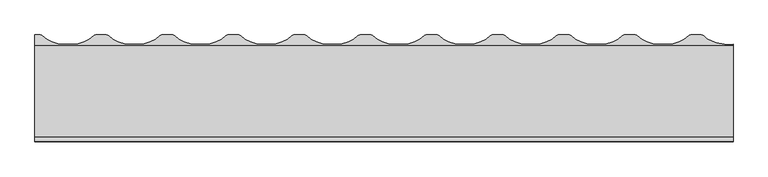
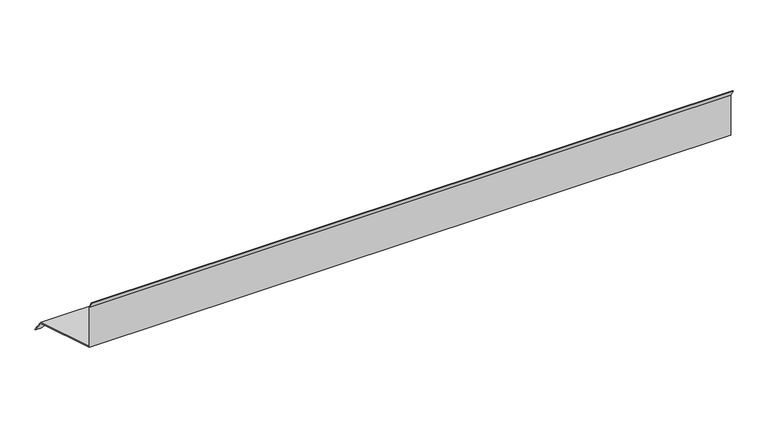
"""IFC4 building model written with IfcOpenShell, lengths in millimetres: proxy geometry, H20.F20.003-E-REMATES TEJA-Troquelado a Pared : Troquelado a Pared Teja."""

from ifc_helpers import new_model, si_unit, point, frame, origin, place, context, project, spatial, ellipse_curve, trimmed, source, transform, mapped, element, save
from ifc_brep_helpers import plane_surface, extruded_surface, advanced_brep


def generic_models_b343a18a(model_context):
    return source(origin(), model_context, "Body", "AdvancedBrep", [
        advanced_brep(
        [(0.0, 0.0, 0.0), (0.0, 230.5094655, -70.473816), (0.0, 257.6202057, -106.3904941), (0.0, 256.3431683, -107.3544315), (0.0, 229.5451993, -71.852117), (0.0, -1.6, -1.1839377), (0.0, -1.6, 114.1712813), (0.0, -11.5588457, 131.4205081), (0.0, -10.0, 132.3205081), (0.0, 0.0, 115.0), (1760.0, 0.0, 0.0), (1760.0, 230.5094655, -70.473816), (1760.0, 233.7002202, -74.7009713), (1685.5419763, 255.2613563, -103.2654582), (1678.6278261, 257.6202057, -106.3904941), (1654.5721739, 257.6202057, -106.3904941), (1647.6580237, 255.2613563, -103.2654582), (1518.8819763, 255.2613563, -103.2654582), (1511.9678261, 257.6202057, -106.3904941), (1487.9121739, 257.6202057, -106.3904941), (1480.9980237, 255.2613563, -103.2654582), (1352.2219763, 255.2613563, -103.2654582), (1345.3078261, 257.6202057, -106.3904941), (1321.2521739, 257.6202057, -106.3904941), (1314.3380237, 255.2613563, -103.2654582), (1185.5619763, 255.2613563, -103.2654582), (1178.6478261, 257.6202057, -106.3904941), (1154.5921739, 257.6202057, -106.3904941), (1147.6780237, 255.2613563, -103.2654582), (1018.9019763, 255.2613563, -103.2654582), (1011.9878261, 257.6202057, -106.3904941), (987.9321739, 257.6202057, -106.3904941), (981.0180237, 255.2613563, -103.2654582), (852.2419763, 255.2613563, -103.2654582), (845.3278261, 257.6202057, -106.3904941), (821.2721739, 257.6202057, -106.3904941), (814.3580237, 255.2613563, -103.2654582), (685.5819763, 255.2613563, -103.2654582), (678.6678261, 257.6202057, -106.3904941), (654.6121739, 257.6202057, -106.3904941), (647.6980237, 255.2613563, -103.2654582), (518.9219763, 255.2613563, -103.2654582), (512.0078261, 257.6202057, -106.3904941), (487.9521739, 257.6202057, -106.3904941), (481.0380237, 255.2613563, -103.2654582), (352.2619763, 255.2613563, -103.2654582), (345.3478261, 257.6202057, -106.3904941), (321.2921739, 257.6202057, -106.3904941), (314.3780237, 255.2613563, -103.2654582), (185.6019763, 255.2613563, -103.2654582), (178.6878261, 257.6202057, -106.3904941), (154.6321739, 257.6202057, -106.3904941), (147.7180237, 255.2613563, -103.2654582), (18.9419763, 255.2613563, -103.2654582), (12.0278261, 257.6202057, -106.3904941), (12.0278261, 256.3431683, -107.3544315), (178.6878261, 256.3431683, -107.3544315), (154.6321739, 256.3431683, -107.3544315), (345.3478261, 256.3431683, -107.3544315), (321.2921739, 256.3431683, -107.3544315), (512.0078261, 256.3431683, -107.3544315), (487.9521739, 256.3431683, -107.3544315), (678.6678261, 256.3431683, -107.3544315), (654.6121739, 256.3431683, -107.3544315), (845.3278261, 256.3431683, -107.3544315), (821.2721739, 256.3431683, -107.3544315), (1011.9878261, 256.3431683, -107.3544315), (987.9321739, 256.3431683, -107.3544315), (1178.6478261, 256.3431683, -107.3544315), (1154.5921739, 256.3431683, -107.3544315), (1345.3078261, 256.3431683, -107.3544315), (1321.2521739, 256.3431683, -107.3544315), (1511.9678261, 256.3431683, -107.3544315), (1487.9121739, 256.3431683, -107.3544315), (1678.6278261, 256.3431683, -107.3544315), (1654.5721739, 256.3431683, -107.3544315), (18.9419763, 253.9843188, -104.2293957), (147.7180237, 253.9843188, -104.2293957), (185.6019763, 253.9843188, -104.2293957), (314.3780237, 253.9843188, -104.2293957), (352.2619763, 253.9843188, -104.2293957), (481.0380237, 253.9843188, -104.2293957), (518.9219763, 253.9843188, -104.2293957), (647.6980237, 253.9843188, -104.2293957), (685.5819763, 253.9843188, -104.2293957), (814.3580237, 253.9843188, -104.2293957), (852.2419763, 253.9843188, -104.2293957), (981.0180237, 253.9843188, -104.2293957), (1018.9019763, 253.9843188, -104.2293957), (1147.6780237, 253.9843188, -104.2293957), (1185.5619763, 253.9843188, -104.2293957), (1314.3380237, 253.9843188, -104.2293957), (1352.2219763, 253.9843188, -104.2293957), (1480.9980237, 253.9843188, -104.2293957), (1518.8819763, 253.9843188, -104.2293957), (1647.6580237, 253.9843188, -104.2293957), (1685.5419763, 253.9843188, -104.2293957), (1760.0, 232.4231827, -75.6649087), (1760.0, 229.5451993, -71.852117), (1760.0, -1.6, -1.1839377), (1760.0, -1.6, 114.1712813), (1760.0, -11.5588457, 131.4205081), (1760.0, -10.0, 132.3205081), (1760.0, 0.0, 115.0)],
        [
            (0, 1),
            (1, 2),
            (2, 3),
            (3, 4),
            (4, 5),
            (5, 6),
            (6, 7),
            (7, 8),
            (8, 9),
            (9, 0),
            (0, 10),
            (10, 11),
            (11, 1),
            (11, 12),
            (12, 13, ellipse_curve(frame((1749.93, 277.496029, -132.7222557), z_axis=(0.0, -0.7981484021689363, -0.6024608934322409), x_axis=(1.0, 0.0, 0.0)), 74.5, 73.3681776)),
            (13, 14, ellipse_curve(frame((1678.6278261, 252.8737404, -100.1023122), z_axis=(0.0, 0.7981484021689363, 0.6024608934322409), x_axis=(1.0, 0.0, 0.0)), 8.0, 7.878462)),
            (14, 15),
            (15, 16, ellipse_curve(frame((1654.5721739, 252.8737404, -100.1023122), z_axis=(0.0, 0.7981484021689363, 0.6024608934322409), x_axis=(1.0, 0.0, 0.0)), 8.0, 7.878462)),
            (16, 17, ellipse_curve(frame((1583.27, 277.496029, -132.7222557), z_axis=(0.0, -0.7981484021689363, -0.6024608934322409), x_axis=(1.0, 0.0, 0.0)), 74.5, 73.3681776)),
            (17, 18, ellipse_curve(frame((1511.9678261, 252.8737404, -100.1023122), z_axis=(0.0, 0.7981484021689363, 0.6024608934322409), x_axis=(1.0, 0.0, 0.0)), 8.0, 7.878462)),
            (18, 19),
            (19, 20, ellipse_curve(frame((1487.9121739, 252.8737404, -100.1023122), z_axis=(0.0, 0.7981484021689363, 0.6024608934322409), x_axis=(1.0, 0.0, 0.0)), 8.0, 7.878462)),
            (20, 21, ellipse_curve(frame((1416.61, 277.496029, -132.7222557), z_axis=(0.0, -0.7981484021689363, -0.6024608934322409), x_axis=(1.0, 0.0, 0.0)), 74.5, 73.3681776)),
            (21, 22, ellipse_curve(frame((1345.3078261, 252.8737404, -100.1023122), z_axis=(0.0, 0.7981484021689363, 0.6024608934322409), x_axis=(1.0, 0.0, 0.0)), 8.0, 7.878462)),
            (22, 23),
            (23, 24, ellipse_curve(frame((1321.2521739, 252.8737404, -100.1023122), z_axis=(0.0, 0.7981484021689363, 0.6024608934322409), x_axis=(1.0, 0.0, 0.0)), 8.0, 7.878462)),
            (24, 25, ellipse_curve(frame((1249.95, 277.496029, -132.7222557), z_axis=(0.0, -0.7981484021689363, -0.6024608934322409), x_axis=(1.0, 0.0, 0.0)), 74.5, 73.3681776)),
            (25, 26, ellipse_curve(frame((1178.6478261, 252.8737404, -100.1023122), z_axis=(0.0, 0.7981484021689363, 0.6024608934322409), x_axis=(1.0, 0.0, 0.0)), 8.0, 7.878462)),
            (26, 27),
            (27, 28, ellipse_curve(frame((1154.5921739, 252.8737404, -100.1023122), z_axis=(0.0, 0.7981484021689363, 0.6024608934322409), x_axis=(1.0, 0.0, 0.0)), 8.0, 7.878462)),
            (28, 29, ellipse_curve(frame((1083.29, 277.496029, -132.7222557), z_axis=(0.0, -0.7981484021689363, -0.6024608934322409), x_axis=(1.0, 0.0, 0.0)), 74.5, 73.3681776)),
            (29, 30, ellipse_curve(frame((1011.9878261, 252.8737404, -100.1023122), z_axis=(0.0, 0.7981484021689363, 0.6024608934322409), x_axis=(1.0, 0.0, 0.0)), 8.0, 7.878462)),
            (30, 31),
            (31, 32, ellipse_curve(frame((987.9321739, 252.8737404, -100.1023122), z_axis=(0.0, 0.7981484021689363, 0.6024608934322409), x_axis=(1.0, 0.0, 0.0)), 8.0, 7.878462)),
            (32, 33, ellipse_curve(frame((916.63, 277.496029, -132.7222557), z_axis=(0.0, -0.7981484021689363, -0.6024608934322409), x_axis=(1.0, 0.0, 0.0)), 74.5, 73.3681776)),
            (33, 34, ellipse_curve(frame((845.3278261, 252.8737404, -100.1023122), z_axis=(0.0, 0.7981484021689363, 0.6024608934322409), x_axis=(1.0, 0.0, 0.0)), 8.0, 7.878462)),
            (34, 35),
            (35, 36, ellipse_curve(frame((821.2721739, 252.8737404, -100.1023122), z_axis=(0.0, 0.7981484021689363, 0.6024608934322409), x_axis=(1.0, 0.0, 0.0)), 8.0, 7.878462)),
            (36, 37, ellipse_curve(frame((749.97, 277.496029, -132.7222557), z_axis=(0.0, -0.7981484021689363, -0.6024608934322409), x_axis=(1.0, 0.0, 0.0)), 74.5, 73.3681776)),
            (37, 38, ellipse_curve(frame((678.6678261, 252.8737404, -100.1023122), z_axis=(0.0, 0.7981484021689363, 0.6024608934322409), x_axis=(1.0, 0.0, 0.0)), 8.0, 7.878462)),
            (38, 39),
            (39, 40, ellipse_curve(frame((654.6121739, 252.8737404, -100.1023122), z_axis=(0.0, 0.7981484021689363, 0.6024608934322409), x_axis=(1.0, 0.0, 0.0)), 8.0, 7.878462)),
            (40, 41, ellipse_curve(frame((583.31, 277.496029, -132.7222557), z_axis=(0.0, -0.7981484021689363, -0.6024608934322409), x_axis=(1.0, 0.0, 0.0)), 74.5, 73.3681776)),
            (41, 42, ellipse_curve(frame((512.0078261, 252.8737404, -100.1023122), z_axis=(0.0, 0.7981484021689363, 0.6024608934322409), x_axis=(1.0, 0.0, 0.0)), 8.0, 7.878462)),
            (42, 43),
            (43, 44, ellipse_curve(frame((487.9521739, 252.8737404, -100.1023122), z_axis=(0.0, 0.7981484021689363, 0.6024608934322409), x_axis=(1.0, 0.0, 0.0)), 8.0, 7.878462)),
            (44, 45, ellipse_curve(frame((416.65, 277.496029, -132.7222557), z_axis=(0.0, -0.7981484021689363, -0.6024608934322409), x_axis=(1.0, 0.0, 0.0)), 74.5, 73.3681776)),
            (45, 46, ellipse_curve(frame((345.3478261, 252.8737404, -100.1023122), z_axis=(0.0, 0.7981484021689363, 0.6024608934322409), x_axis=(1.0, 0.0, 0.0)), 8.0, 7.878462)),
            (46, 47),
            (47, 48, ellipse_curve(frame((321.2921739, 252.8737404, -100.1023122), z_axis=(0.0, 0.7981484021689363, 0.6024608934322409), x_axis=(1.0, 0.0, 0.0)), 8.0, 7.878462)),
            (48, 49, ellipse_curve(frame((249.99, 277.496029, -132.7222557), z_axis=(0.0, -0.7981484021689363, -0.6024608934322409), x_axis=(1.0, 0.0, 0.0)), 74.5, 73.3681776)),
            (49, 50, ellipse_curve(frame((178.6878261, 252.8737404, -100.1023122), z_axis=(0.0, 0.7981484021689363, 0.6024608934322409), x_axis=(1.0, 0.0, 0.0)), 8.0, 7.878462)),
            (50, 51),
            (51, 52, ellipse_curve(frame((154.6321739, 252.8737404, -100.1023122), z_axis=(0.0, 0.7981484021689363, 0.6024608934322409), x_axis=(1.0, 0.0, 0.0)), 8.0, 7.878462)),
            (52, 53, ellipse_curve(frame((83.33, 277.496029, -132.7222557), z_axis=(0.0, -0.7981484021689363, -0.6024608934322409), x_axis=(1.0, 0.0, 0.0)), 74.5, 73.3681776)),
            (53, 54, ellipse_curve(frame((12.0278261, 252.8737404, -100.1023122), z_axis=(0.0, 0.7981484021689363, 0.6024608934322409), x_axis=(1.0, 0.0, 0.0)), 8.0, 7.878462)),
            (54, 2),
            (54, 55),
            (55, 3),
            (50, 56),
            (56, 57),
            (57, 51),
            (46, 58),
            (58, 59),
            (59, 47),
            (42, 60),
            (60, 61),
            (61, 43),
            (38, 62),
            (62, 63),
            (63, 39),
            (34, 64),
            (64, 65),
            (65, 35),
            (30, 66),
            (66, 67),
            (67, 31),
            (26, 68),
            (68, 69),
            (69, 27),
            (22, 70),
            (70, 71),
            (71, 23),
            (18, 72),
            (72, 73),
            (73, 19),
            (14, 74),
            (74, 75),
            (75, 15),
            (55, 76, ellipse_curve(frame((12.0278261, 251.596703, -101.0662496), z_axis=(0.0, -0.7981484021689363, -0.6024608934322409), x_axis=(1.0, 0.0, 0.0)), 8.0, 7.878462)),
            (76, 77, ellipse_curve(frame((83.33, 276.2189916, -133.6861931), z_axis=(0.0, 0.7981484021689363, 0.6024608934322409), x_axis=(1.0, 0.0, 0.0)), 74.5, 73.3681776)),
            (77, 57, ellipse_curve(frame((154.6321739, 251.596703, -101.0662496), z_axis=(0.0, -0.7981484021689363, -0.6024608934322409), x_axis=(1.0, 0.0, 0.0)), 8.0, 7.878462)),
            (56, 78, ellipse_curve(frame((178.6878261, 251.596703, -101.0662496), z_axis=(0.0, -0.7981484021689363, -0.6024608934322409), x_axis=(1.0, 0.0, 0.0)), 8.0, 7.878462)),
            (78, 79, ellipse_curve(frame((249.99, 276.2189916, -133.6861931), z_axis=(0.0, 0.7981484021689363, 0.6024608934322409), x_axis=(1.0, 0.0, 0.0)), 74.5, 73.3681776)),
            (79, 59, ellipse_curve(frame((321.2921739, 251.596703, -101.0662496), z_axis=(0.0, -0.7981484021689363, -0.6024608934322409), x_axis=(1.0, 0.0, 0.0)), 8.0, 7.878462)),
            (58, 80, ellipse_curve(frame((345.3478261, 251.596703, -101.0662496), z_axis=(0.0, -0.7981484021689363, -0.6024608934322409), x_axis=(1.0, 0.0, 0.0)), 8.0, 7.878462)),
            (80, 81, ellipse_curve(frame((416.65, 276.2189916, -133.6861931), z_axis=(0.0, 0.7981484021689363, 0.6024608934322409), x_axis=(1.0, 0.0, 0.0)), 74.5, 73.3681776)),
            (81, 61, ellipse_curve(frame((487.9521739, 251.596703, -101.0662496), z_axis=(0.0, -0.7981484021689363, -0.6024608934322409), x_axis=(1.0, 0.0, 0.0)), 8.0, 7.878462)),
            (60, 82, ellipse_curve(frame((512.0078261, 251.596703, -101.0662496), z_axis=(0.0, -0.7981484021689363, -0.6024608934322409), x_axis=(1.0, 0.0, 0.0)), 8.0, 7.878462)),
            (82, 83, ellipse_curve(frame((583.31, 276.2189916, -133.6861931), z_axis=(0.0, 0.7981484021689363, 0.6024608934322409), x_axis=(1.0, 0.0, 0.0)), 74.5, 73.3681776)),
            (83, 63, ellipse_curve(frame((654.6121739, 251.596703, -101.0662496), z_axis=(0.0, -0.7981484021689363, -0.6024608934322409), x_axis=(1.0, 0.0, 0.0)), 8.0, 7.878462)),
            (62, 84, ellipse_curve(frame((678.6678261, 251.596703, -101.0662496), z_axis=(0.0, -0.7981484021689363, -0.6024608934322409), x_axis=(1.0, 0.0, 0.0)), 8.0, 7.878462)),
            (84, 85, ellipse_curve(frame((749.97, 276.2189916, -133.6861931), z_axis=(0.0, 0.7981484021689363, 0.6024608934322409), x_axis=(1.0, 0.0, 0.0)), 74.5, 73.3681776)),
            (85, 65, ellipse_curve(frame((821.2721739, 251.596703, -101.0662496), z_axis=(0.0, -0.7981484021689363, -0.6024608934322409), x_axis=(1.0, 0.0, 0.0)), 8.0, 7.878462)),
            (64, 86, ellipse_curve(frame((845.3278261, 251.596703, -101.0662496), z_axis=(0.0, -0.7981484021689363, -0.6024608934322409), x_axis=(1.0, 0.0, 0.0)), 8.0, 7.878462)),
            (86, 87, ellipse_curve(frame((916.63, 276.2189916, -133.6861931), z_axis=(0.0, 0.7981484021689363, 0.6024608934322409), x_axis=(1.0, 0.0, 0.0)), 74.5, 73.3681776)),
            (87, 67, ellipse_curve(frame((987.9321739, 251.596703, -101.0662496), z_axis=(0.0, -0.7981484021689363, -0.6024608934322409), x_axis=(1.0, 0.0, 0.0)), 8.0, 7.878462)),
            (66, 88, ellipse_curve(frame((1011.9878261, 251.596703, -101.0662496), z_axis=(0.0, -0.7981484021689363, -0.6024608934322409), x_axis=(1.0, 0.0, 0.0)), 8.0, 7.878462)),
            (88, 89, ellipse_curve(frame((1083.29, 276.2189916, -133.6861931), z_axis=(0.0, 0.7981484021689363, 0.6024608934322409), x_axis=(1.0, 0.0, 0.0)), 74.5, 73.3681776)),
            (89, 69, ellipse_curve(frame((1154.5921739, 251.596703, -101.0662496), z_axis=(0.0, -0.7981484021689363, -0.6024608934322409), x_axis=(1.0, 0.0, 0.0)), 8.0, 7.878462)),
            (68, 90, ellipse_curve(frame((1178.6478261, 251.596703, -101.0662496), z_axis=(0.0, -0.7981484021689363, -0.6024608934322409), x_axis=(1.0, 0.0, 0.0)), 8.0, 7.878462)),
            (90, 91, ellipse_curve(frame((1249.95, 276.2189916, -133.6861931), z_axis=(0.0, 0.7981484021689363, 0.6024608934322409), x_axis=(1.0, 0.0, 0.0)), 74.5, 73.3681776)),
            (91, 71, ellipse_curve(frame((1321.2521739, 251.596703, -101.0662496), z_axis=(0.0, -0.7981484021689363, -0.6024608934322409), x_axis=(1.0, 0.0, 0.0)), 8.0, 7.878462)),
            (70, 92, ellipse_curve(frame((1345.3078261, 251.596703, -101.0662496), z_axis=(0.0, -0.7981484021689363, -0.6024608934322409), x_axis=(1.0, 0.0, 0.0)), 8.0, 7.878462)),
            (92, 93, ellipse_curve(frame((1416.61, 276.2189916, -133.6861931), z_axis=(0.0, 0.7981484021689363, 0.6024608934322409), x_axis=(1.0, 0.0, 0.0)), 74.5, 73.3681776)),
            (93, 73, ellipse_curve(frame((1487.9121739, 251.596703, -101.0662496), z_axis=(0.0, -0.7981484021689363, -0.6024608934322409), x_axis=(1.0, 0.0, 0.0)), 8.0, 7.878462)),
            (72, 94, ellipse_curve(frame((1511.9678261, 251.596703, -101.0662496), z_axis=(0.0, -0.7981484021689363, -0.6024608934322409), x_axis=(1.0, 0.0, 0.0)), 8.0, 7.878462)),
            (94, 95, ellipse_curve(frame((1583.27, 276.2189916, -133.6861931), z_axis=(0.0, 0.7981484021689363, 0.6024608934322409), x_axis=(1.0, 0.0, 0.0)), 74.5, 73.3681776)),
            (95, 75, ellipse_curve(frame((1654.5721739, 251.596703, -101.0662496), z_axis=(0.0, -0.7981484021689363, -0.6024608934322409), x_axis=(1.0, 0.0, 0.0)), 8.0, 7.878462)),
            (74, 96, ellipse_curve(frame((1678.6278261, 251.596703, -101.0662496), z_axis=(0.0, -0.7981484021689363, -0.6024608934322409), x_axis=(1.0, 0.0, 0.0)), 8.0, 7.878462)),
            (96, 97, ellipse_curve(frame((1749.93, 276.2189916, -133.6861931), z_axis=(0.0, 0.7981484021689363, 0.6024608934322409), x_axis=(1.0, 0.0, 0.0)), 74.5, 73.3681776)),
            (97, 98),
            (98, 4),
            (52, 77),
            (76, 53),
            (49, 78),
            (48, 79),
            (45, 80),
            (44, 81),
            (41, 82),
            (40, 83),
            (37, 84),
            (36, 85),
            (33, 86),
            (32, 87),
            (29, 88),
            (28, 89),
            (25, 90),
            (24, 91),
            (21, 92),
            (20, 93),
            (17, 94),
            (16, 95),
            (13, 96),
            (12, 97),
            (98, 99),
            (99, 5),
            (99, 100),
            (100, 6),
            (100, 101),
            (101, 7),
            (101, 102),
            (102, 8),
            (102, 103),
            (103, 9),
            (103, 10),
        ],
        [
            plane_surface(frame((0.0, 0.0, 0.0), z_axis=(-1.0, 0.0, 0.0), x_axis=(0.0, 0.0, 1.0))),
            plane_surface(frame((2500.0, 0.0, 0.0), z_axis=(0.0, 0.2923717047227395, 0.9563047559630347), x_axis=(-1.0, 0.0, 0.0))),
            plane_surface(frame((2500.0, 230.5094655, -70.473816), z_axis=(0.0, 0.7981484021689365, 0.6024608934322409), x_axis=(-1.0, 0.0, 0.0))),
            plane_surface(frame((2500.0, 257.6202057, -106.3904941), z_axis=(0.0, 0.6024608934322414, -0.798148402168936), x_axis=(-1.0, 0.0, 0.0))),
            plane_surface(frame((2500.0, 256.3431683, -107.3544315), z_axis=(0.0, -0.7981484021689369, -0.6024608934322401), x_axis=(-1.0, 0.0, 0.0))),
            extruded_surface(trimmed(ellipse_curve(frame((83.33, 279.0923258, -131.5173339), z_axis=(0.0, 0.7981484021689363, 0.6024608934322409), x_axis=(1.0, 0.0, 0.0)), 74.5, 73.3681776), [point((18.9419763, 256.8576531, -102.0605364))], [point((147.7180237, 256.8576531, -102.0605364))], True, "CARTESIAN"), (0.0, -1.5962968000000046, -1.204921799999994), 2.00000000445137),
            extruded_surface(trimmed(ellipse_curve(frame((154.6321739, 254.4700372, -98.8973904), z_axis=(0.0, -0.7981484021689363, -0.6024608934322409), x_axis=(1.0, 0.0, 0.0)), 8.0, 7.878462), [point((147.7180237, 256.8576531, -102.0605364))], [point((154.6321739, 259.2165025, -105.1855723))], True, "CARTESIAN"), (0.0, -1.5962968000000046, -1.204921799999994), 2.00000000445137),
            extruded_surface(trimmed(ellipse_curve(frame((178.6878261, 254.4700372, -98.8973904), z_axis=(0.0, -0.7981484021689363, -0.6024608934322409), x_axis=(1.0, 0.0, 0.0)), 8.0, 7.878462), [point((178.6878261, 259.2165025, -105.1855723))], [point((185.6019763, 256.8576531, -102.0605364))], True, "CARTESIAN"), (0.0, -1.5962968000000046, -1.204921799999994), 2.00000000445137),
            extruded_surface(trimmed(ellipse_curve(frame((249.99, 279.0923258, -131.5173339), z_axis=(0.0, 0.7981484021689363, 0.6024608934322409), x_axis=(1.0, 0.0, 0.0)), 74.5, 73.3681776), [point((185.6019763, 256.8576531, -102.0605364))], [point((314.3780237, 256.8576531, -102.0605364))], True, "CARTESIAN"), (0.0, -1.5962968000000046, -1.204921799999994), 2.00000000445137),
            extruded_surface(trimmed(ellipse_curve(frame((321.2921739, 254.4700372, -98.8973904), z_axis=(0.0, -0.7981484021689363, -0.6024608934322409), x_axis=(1.0, 0.0, 0.0)), 8.0, 7.878462), [point((314.3780237, 256.8576531, -102.0605364))], [point((321.2921739, 259.2165025, -105.1855723))], True, "CARTESIAN"), (0.0, -1.5962968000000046, -1.204921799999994), 2.00000000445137),
            extruded_surface(trimmed(ellipse_curve(frame((345.3478261, 254.4700372, -98.8973904), z_axis=(0.0, -0.7981484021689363, -0.6024608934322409), x_axis=(1.0, 0.0, 0.0)), 8.0, 7.878462), [point((345.3478261, 259.2165025, -105.1855723))], [point((352.2619763, 256.8576531, -102.0605364))], True, "CARTESIAN"), (0.0, -1.5962968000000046, -1.204921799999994), 2.00000000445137),
            extruded_surface(trimmed(ellipse_curve(frame((416.65, 279.0923258, -131.5173339), z_axis=(0.0, 0.7981484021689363, 0.6024608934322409), x_axis=(1.0, 0.0, 0.0)), 74.5, 73.3681776), [point((352.2619763, 256.8576531, -102.0605364))], [point((481.0380237, 256.8576531, -102.0605364))], True, "CARTESIAN"), (0.0, -1.5962968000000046, -1.204921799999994), 2.00000000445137),
            extruded_surface(trimmed(ellipse_curve(frame((487.9521739, 254.4700372, -98.8973904), z_axis=(0.0, -0.7981484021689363, -0.6024608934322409), x_axis=(1.0, 0.0, 0.0)), 8.0, 7.878462), [point((481.0380237, 256.8576531, -102.0605364))], [point((487.9521739, 259.2165025, -105.1855723))], True, "CARTESIAN"), (0.0, -1.5962968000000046, -1.204921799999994), 2.00000000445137),
            extruded_surface(trimmed(ellipse_curve(frame((512.0078261, 254.4700372, -98.8973904), z_axis=(0.0, -0.7981484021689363, -0.6024608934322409), x_axis=(1.0, 0.0, 0.0)), 8.0, 7.878462), [point((512.0078261, 259.2165025, -105.1855723))], [point((518.9219763, 256.8576531, -102.0605364))], True, "CARTESIAN"), (0.0, -1.5962968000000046, -1.204921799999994), 2.00000000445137),
            extruded_surface(trimmed(ellipse_curve(frame((583.31, 279.0923258, -131.5173339), z_axis=(0.0, 0.7981484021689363, 0.6024608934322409), x_axis=(1.0, 0.0, 0.0)), 74.5, 73.3681776), [point((518.9219763, 256.8576531, -102.0605364))], [point((647.6980237, 256.8576531, -102.0605364))], True, "CARTESIAN"), (0.0, -1.5962968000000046, -1.204921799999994), 2.00000000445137),
            extruded_surface(trimmed(ellipse_curve(frame((654.6121739, 254.4700372, -98.8973904), z_axis=(0.0, -0.7981484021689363, -0.6024608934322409), x_axis=(1.0, 0.0, 0.0)), 8.0, 7.878462), [point((647.6980237, 256.8576531, -102.0605364))], [point((654.6121739, 259.2165025, -105.1855723))], True, "CARTESIAN"), (0.0, -1.5962968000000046, -1.204921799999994), 2.00000000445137),
            extruded_surface(trimmed(ellipse_curve(frame((678.6678261, 254.4700372, -98.8973904), z_axis=(0.0, -0.7981484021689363, -0.6024608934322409), x_axis=(1.0, 0.0, 0.0)), 8.0, 7.878462), [point((678.6678261, 259.2165025, -105.1855723))], [point((685.5819763, 256.8576531, -102.0605364))], True, "CARTESIAN"), (0.0, -1.5962968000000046, -1.204921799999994), 2.00000000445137),
            extruded_surface(trimmed(ellipse_curve(frame((749.97, 279.0923258, -131.5173339), z_axis=(0.0, 0.7981484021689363, 0.6024608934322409), x_axis=(1.0, 0.0, 0.0)), 74.5, 73.3681776), [point((685.5819763, 256.8576531, -102.0605364))], [point((814.3580237, 256.8576531, -102.0605364))], True, "CARTESIAN"), (0.0, -1.5962968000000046, -1.204921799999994), 2.00000000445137),
            extruded_surface(trimmed(ellipse_curve(frame((821.2721739, 254.4700372, -98.8973904), z_axis=(0.0, -0.7981484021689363, -0.6024608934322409), x_axis=(1.0, 0.0, 0.0)), 8.0, 7.878462), [point((814.3580237, 256.8576531, -102.0605364))], [point((821.2721739, 259.2165025, -105.1855723))], True, "CARTESIAN"), (0.0, -1.5962968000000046, -1.204921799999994), 2.00000000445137),
            extruded_surface(trimmed(ellipse_curve(frame((845.3278261, 254.4700372, -98.8973904), z_axis=(0.0, -0.7981484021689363, -0.6024608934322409), x_axis=(1.0, 0.0, 0.0)), 8.0, 7.878462), [point((845.3278261, 259.2165025, -105.1855723))], [point((852.2419763, 256.8576531, -102.0605364))], True, "CARTESIAN"), (0.0, -1.5962968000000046, -1.204921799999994), 2.00000000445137),
            extruded_surface(trimmed(ellipse_curve(frame((916.63, 279.0923258, -131.5173339), z_axis=(0.0, 0.7981484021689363, 0.6024608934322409), x_axis=(1.0, 0.0, 0.0)), 74.5, 73.3681776), [point((852.2419763, 256.8576531, -102.0605364))], [point((981.0180237, 256.8576531, -102.0605364))], True, "CARTESIAN"), (0.0, -1.5962968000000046, -1.204921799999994), 2.00000000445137),
            extruded_surface(trimmed(ellipse_curve(frame((987.9321739, 254.4700372, -98.8973904), z_axis=(0.0, -0.7981484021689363, -0.6024608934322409), x_axis=(1.0, 0.0, 0.0)), 8.0, 7.878462), [point((981.0180237, 256.8576531, -102.0605364))], [point((987.9321739, 259.2165025, -105.1855723))], True, "CARTESIAN"), (0.0, -1.5962968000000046, -1.204921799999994), 2.00000000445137),
            extruded_surface(trimmed(ellipse_curve(frame((1011.9878261, 254.4700372, -98.8973904), z_axis=(0.0, -0.7981484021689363, -0.6024608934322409), x_axis=(1.0, 0.0, 0.0)), 8.0, 7.878462), [point((1011.9878261, 259.2165025, -105.1855723))], [point((1018.9019763, 256.8576531, -102.0605364))], True, "CARTESIAN"), (0.0, -1.5962968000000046, -1.204921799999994), 2.00000000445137),
            extruded_surface(trimmed(ellipse_curve(frame((1083.29, 279.0923258, -131.5173339), z_axis=(0.0, 0.7981484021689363, 0.6024608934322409), x_axis=(1.0, 0.0, 0.0)), 74.5, 73.3681776), [point((1018.9019763, 256.8576531, -102.0605364))], [point((1147.6780237, 256.8576531, -102.0605364))], True, "CARTESIAN"), (0.0, -1.5962968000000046, -1.204921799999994), 2.00000000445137),
            extruded_surface(trimmed(ellipse_curve(frame((1154.5921739, 254.4700372, -98.8973904), z_axis=(0.0, -0.7981484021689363, -0.6024608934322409), x_axis=(1.0, 0.0, 0.0)), 8.0, 7.878462), [point((1147.6780237, 256.8576531, -102.0605364))], [point((1154.5921739, 259.2165025, -105.1855723))], True, "CARTESIAN"), (0.0, -1.5962968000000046, -1.204921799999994), 2.00000000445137),
            extruded_surface(trimmed(ellipse_curve(frame((1178.6478261, 254.4700372, -98.8973904), z_axis=(0.0, -0.7981484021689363, -0.6024608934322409), x_axis=(1.0, 0.0, 0.0)), 8.0, 7.878462), [point((1178.6478261, 259.2165025, -105.1855723))], [point((1185.5619763, 256.8576531, -102.0605364))], True, "CARTESIAN"), (0.0, -1.5962968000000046, -1.204921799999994), 2.00000000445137),
            extruded_surface(trimmed(ellipse_curve(frame((1249.95, 279.0923258, -131.5173339), z_axis=(0.0, 0.7981484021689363, 0.6024608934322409), x_axis=(1.0, 0.0, 0.0)), 74.5, 73.3681776), [point((1185.5619763, 256.8576531, -102.0605364))], [point((1314.3380237, 256.8576531, -102.0605364))], True, "CARTESIAN"), (0.0, -1.5962968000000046, -1.204921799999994), 2.00000000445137),
            extruded_surface(trimmed(ellipse_curve(frame((1321.2521739, 254.4700372, -98.8973904), z_axis=(0.0, -0.7981484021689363, -0.6024608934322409), x_axis=(1.0, 0.0, 0.0)), 8.0, 7.878462), [point((1314.3380237, 256.8576531, -102.0605364))], [point((1321.2521739, 259.2165025, -105.1855723))], True, "CARTESIAN"), (0.0, -1.5962968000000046, -1.204921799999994), 2.00000000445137),
            extruded_surface(trimmed(ellipse_curve(frame((1345.3078261, 254.4700372, -98.8973904), z_axis=(0.0, -0.7981484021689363, -0.6024608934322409), x_axis=(1.0, 0.0, 0.0)), 8.0, 7.878462), [point((1345.3078261, 259.2165025, -105.1855723))], [point((1352.2219763, 256.8576531, -102.0605364))], True, "CARTESIAN"), (0.0, -1.5962968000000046, -1.204921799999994), 2.00000000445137),
            extruded_surface(trimmed(ellipse_curve(frame((1416.61, 279.0923258, -131.5173339), z_axis=(0.0, 0.7981484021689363, 0.6024608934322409), x_axis=(1.0, 0.0, 0.0)), 74.5, 73.3681776), [point((1352.2219763, 256.8576531, -102.0605364))], [point((1480.9980237, 256.8576531, -102.0605364))], True, "CARTESIAN"), (0.0, -1.5962968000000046, -1.204921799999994), 2.00000000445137),
            extruded_surface(trimmed(ellipse_curve(frame((1487.9121739, 254.4700372, -98.8973904), z_axis=(0.0, -0.7981484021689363, -0.6024608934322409), x_axis=(1.0, 0.0, 0.0)), 8.0, 7.878462), [point((1480.9980237, 256.8576531, -102.0605364))], [point((1487.9121739, 259.2165025, -105.1855723))], True, "CARTESIAN"), (0.0, -1.5962968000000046, -1.204921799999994), 2.00000000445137),
            extruded_surface(trimmed(ellipse_curve(frame((1511.9678261, 254.4700372, -98.8973904), z_axis=(0.0, -0.7981484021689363, -0.6024608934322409), x_axis=(1.0, 0.0, 0.0)), 8.0, 7.878462), [point((1511.9678261, 259.2165025, -105.1855723))], [point((1518.8819763, 256.8576531, -102.0605364))], True, "CARTESIAN"), (0.0, -1.5962968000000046, -1.204921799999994), 2.00000000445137),
            extruded_surface(trimmed(ellipse_curve(frame((1583.27, 279.0923258, -131.5173339), z_axis=(0.0, 0.7981484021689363, 0.6024608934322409), x_axis=(1.0, 0.0, 0.0)), 74.5, 73.3681776), [point((1518.8819763, 256.8576531, -102.0605364))], [point((1647.6580237, 256.8576531, -102.0605364))], True, "CARTESIAN"), (0.0, -1.5962968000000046, -1.204921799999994), 2.00000000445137),
            extruded_surface(trimmed(ellipse_curve(frame((1654.5721739, 254.4700372, -98.8973904), z_axis=(0.0, -0.7981484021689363, -0.6024608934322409), x_axis=(1.0, 0.0, 0.0)), 8.0, 7.878462), [point((1647.6580237, 256.8576531, -102.0605364))], [point((1654.5721739, 259.2165025, -105.1855723))], True, "CARTESIAN"), (0.0, -1.5962968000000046, -1.204921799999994), 2.00000000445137),
            extruded_surface(trimmed(ellipse_curve(frame((1678.6278261, 254.4700372, -98.8973904), z_axis=(0.0, -0.7981484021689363, -0.6024608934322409), x_axis=(1.0, 0.0, 0.0)), 8.0, 7.878462), [point((1678.6278261, 259.2165025, -105.1855723))], [point((1685.5419763, 256.8576531, -102.0605364))], True, "CARTESIAN"), (0.0, -1.5962968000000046, -1.204921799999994), 2.00000000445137),
            extruded_surface(trimmed(ellipse_curve(frame((1749.93, 279.0923258, -131.5173339), z_axis=(0.0, 0.7981484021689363, 0.6024608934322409), x_axis=(1.0, 0.0, 0.0)), 74.5, 73.3681776), [point((1685.5419763, 256.8576531, -102.0605364))], [point((1814.3180237, 256.8576531, -102.0605364))], True, "CARTESIAN"), (0.0, -1.5962968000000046, -1.204921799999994), 2.00000000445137),
            extruded_surface(trimmed(ellipse_curve(frame((12.0278261, 254.4700372, -98.8973904), z_axis=(0.0, -0.7981484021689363, -0.6024608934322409), x_axis=(1.0, 0.0, 0.0)), 8.0, 7.878462), [point((12.0278261, 259.2165025, -105.1855723))], [point((18.9419763, 256.8576531, -102.0605364))], True, "CARTESIAN"), (0.0, -1.5962968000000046, -1.204921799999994), 2.00000000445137),
            plane_surface(frame((2500.0, 229.5451993, -71.852117), z_axis=(0.0, -0.2923717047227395, -0.9563047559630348), x_axis=(-1.0, 0.0, 0.0))),
            plane_surface(frame((2500.0, -1.6, -1.1839377), z_axis=(0.0, -1.0, 0.0), x_axis=(-1.0, 0.0, 0.0))),
            plane_surface(frame((2500.0, -1.6, 114.1712813), z_axis=(0.0, -0.866025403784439, -0.49999999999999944), x_axis=(-1.0, 0.0, 0.0))),
            plane_surface(frame((2500.0, -11.5588457, 131.4205081), z_axis=(0.0, -0.4999999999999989, 0.8660254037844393), x_axis=(-1.0, 0.0, 0.0))),
            plane_surface(frame((2500.0, -10.0, 132.3205081), z_axis=(0.0, 0.8660254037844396, 0.4999999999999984), x_axis=(-1.0, 0.0, 0.0))),
            plane_surface(frame((2500.0, 0.0, 115.0), z_axis=(0.0, 1.0, 0.0), x_axis=(-1.0, 0.0, 0.0))),
            plane_surface(frame((1760.0, -196.3809555, 250.0), z_axis=(1.0, 0.0, 0.0), x_axis=(0.0, 0.0, -1.0))),
        ],
        [
            (0, [[1, 2, 3, 4, 5, 6, 7, 8, 9, 10]]),
            (1, [[11, 12, 13, -1]]),
            (2, [[-13, 14, 15, 16, 17, 18, 19, 20, 21, 22, 23, 24, 25, 26, 27, 28, 29, 30, 31, 32, 33, 34, 35, 36, 37, 38, 39, 40, 41, 42, 43, 44, 45, 46, 47, 48, 49, 50, 51, 52, 53, 54, 55, 56, 57, -2]]),
            (3, [[-57, 58, 59, -3]]),
            (3, [[60, 61, 62, -53]]),
            (3, [[63, 64, 65, -49]]),
            (3, [[66, 67, 68, -45]]),
            (3, [[69, 70, 71, -41]]),
            (3, [[72, 73, 74, -37]]),
            (3, [[75, 76, 77, -33]]),
            (3, [[78, 79, 80, -29]]),
            (3, [[81, 82, 83, -25]]),
            (3, [[84, 85, 86, -21]]),
            (3, [[87, 88, 89, -17]]),
            (4, [[-59, 90, 91, 92, -61, 93, 94, 95, -64, 96, 97, 98, -67, 99, 100, 101, -70, 102, 103, 104, -73, 105, 106, 107, -76, 108, 109, 110, -79, 111, 112, 113, -82, 114, 115, 116, -85, 117, 118, 119, -88, 120, 121, 122, 123, -4]]),
            (5, [[-55, 124, -91, 125]]),
            (6, [[-54, -62, -92, -124]]),
            (7, [[-93, -60, -52, 126]]),
            (8, [[-51, 127, -94, -126]]),
            (9, [[-50, -65, -95, -127]]),
            (10, [[-96, -63, -48, 128]]),
            (11, [[-47, 129, -97, -128]]),
            (12, [[-46, -68, -98, -129]]),
            (13, [[-99, -66, -44, 130]]),
            (14, [[-43, 131, -100, -130]]),
            (15, [[-42, -71, -101, -131]]),
            (16, [[-102, -69, -40, 132]]),
            (17, [[-39, 133, -103, -132]]),
            (18, [[-38, -74, -104, -133]]),
            (19, [[-105, -72, -36, 134]]),
            (20, [[-35, 135, -106, -134]]),
            (21, [[-34, -77, -107, -135]]),
            (22, [[-108, -75, -32, 136]]),
            (23, [[-31, 137, -109, -136]]),
            (24, [[-30, -80, -110, -137]]),
            (25, [[-111, -78, -28, 138]]),
            (26, [[-27, 139, -112, -138]]),
            (27, [[-26, -83, -113, -139]]),
            (28, [[-114, -81, -24, 140]]),
            (29, [[-23, 141, -115, -140]]),
            (30, [[-22, -86, -116, -141]]),
            (31, [[-117, -84, -20, 142]]),
            (32, [[-19, 143, -118, -142]]),
            (33, [[-18, -89, -119, -143]]),
            (34, [[-120, -87, -16, 144]]),
            (35, [[-15, 145, -121, -144]]),
            (36, [[-90, -58, -56, -125]]),
            (37, [[-123, 146, 147, -5]]),
            (38, [[-147, 148, 149, -6]]),
            (39, [[-149, 150, 151, -7]]),
            (40, [[-151, 152, 153, -8]]),
            (41, [[-153, 154, 155, -9]]),
            (42, [[-155, 156, -11, -10]]),
            (43, [[-156, -154, -152, -150, -148, -146, -122, -145, -14, -12]]),
        ],
    ),
    ])


if __name__ == "__main__":
    model = new_model("IFC4")
    model_context = context("Model", 3, world=origin())
    ifc_project = project(units=[si_unit("LENGTHUNIT", "METRE", prefix="MILLI")], contexts=[model_context])
    site = spatial("IfcSite", under=ifc_project)
    building = spatial("IfcBuilding", under=site)
    placement = place(None, origin())
    generic_models_shape = generic_models_b343a18a(model_context)
    element("IfcBuildingElementProxy", 1, Name="H20.F20.003-E-REMATES TEJA-Troquelado a Pared : Troquelado a Pared Teja", ObjectType="H20.F20.003-E-REMATES TEJA-Troquelado a Pared : Troquelado a Pared Teja", at=placement, inside=building, context=model_context, shape_type="MappedRepresentation", body=[
        mapped(generic_models_shape, transform((0.0, 0.0, 0.0), x_axis=(1.0, 0.0, 0.0), y_axis=(0.0, 1.0, 0.0), z_axis=(0.0, 0.0, 1.0))),
    ])
    save(model, "model.ifc")
